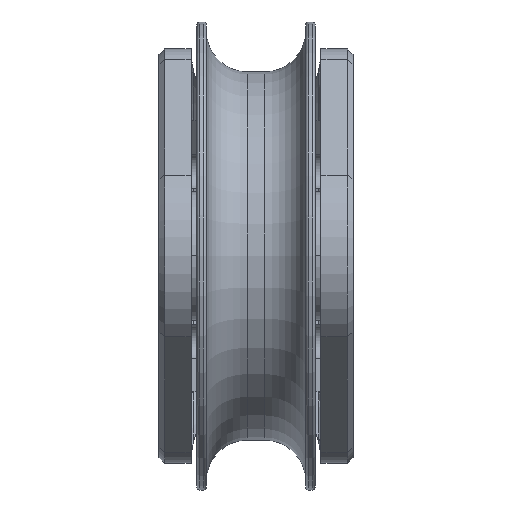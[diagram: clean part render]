
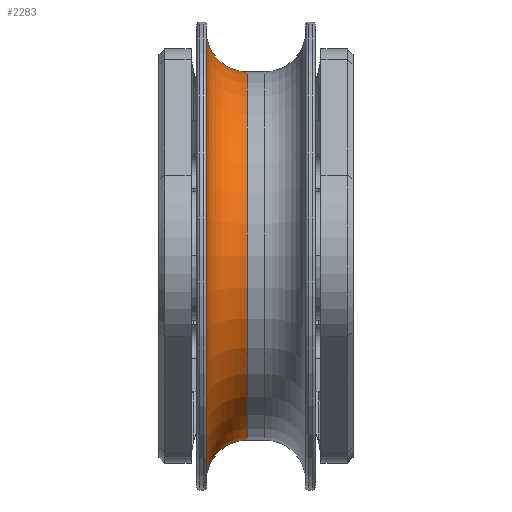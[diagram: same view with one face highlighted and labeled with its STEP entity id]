
A CAD part, top view. The second image highlights one B-rep face of the part: STEP entity #2283.
In plain terms, the highlighted toroidal (fillet/blend) face has major radius 38.5 mm and minor radius 7 mm.
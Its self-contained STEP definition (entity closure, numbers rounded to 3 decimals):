
#2=CARTESIAN_POINT('',(-1.5,0.,0.));
#3=DIRECTION('',(1.,0.,0.));
#4=DIRECTION('',(0.,1.,0.));
#5=AXIS2_PLACEMENT_3D('',#2,#3,#4);
#7=CARTESIAN_POINT('',(-1.5,38.5,0.));
#8=DIRECTION('',(0.,0.,-1.));
#9=DIRECTION('',(0.,-1.,0.));
#10=AXIS2_PLACEMENT_3D('',#7,#8,#9);
#12=CARTESIAN_POINT('',(-1.5,-38.5,0.));
#13=DIRECTION('',(0.,0.,1.));
#14=DIRECTION('',(0.,1.,0.));
#15=AXIS2_PLACEMENT_3D('',#12,#13,#14);
#27=CARTESIAN_POINT('',(-8.5,0.,0.));
#28=DIRECTION('',(1.,0.,0.));
#29=DIRECTION('',(0.,1.,0.));
#30=AXIS2_PLACEMENT_3D('',#27,#28,#29);
#2013=CARTESIAN_POINT('',(-1.5,31.5,0.));
#2015=VERTEX_POINT('',#2013);
#2029=CARTESIAN_POINT('',(-1.5,-31.5,0.));
#2031=VERTEX_POINT('',#2029);
#2038=CARTESIAN_POINT('',(-8.5,38.5,0.));
#2039=VERTEX_POINT('',#2038);
#2042=CARTESIAN_POINT('',(-8.5,-38.5,0.));
#2043=VERTEX_POINT('',#2042);
#2268=CARTESIAN_POINT('',(-1.5,0.,0.));
#2269=DIRECTION('',(1.,0.,0.));
#2270=DIRECTION('',(0.,-1.,0.));
#2271=AXIS2_PLACEMENT_3D('',#2268,#2269,#2270);
#2272=TOROIDAL_SURFACE('',#2271,38.5,7.);
#2274=ORIENTED_EDGE('',*,*,#2273,.F.);
#2276=ORIENTED_EDGE('',*,*,#2275,.T.);
#2278=ORIENTED_EDGE('',*,*,#2277,.T.);
#2280=ORIENTED_EDGE('',*,*,#2279,.F.);
#2281=EDGE_LOOP('',(#2274,#2276,#2278,#2280));
#2282=FACE_OUTER_BOUND('',#2281,.F.);
#2283=ADVANCED_FACE('',(#2282),#2272,.F.);
#6=CIRCLE('',#5,31.5);
#11=CIRCLE('',#10,7.);
#16=CIRCLE('',#15,7.);
#31=CIRCLE('',#30,38.5);
#2273=EDGE_CURVE('',#2015,#2039,#11,.T.);
#2275=EDGE_CURVE('',#2015,#2031,#6,.T.);
#2277=EDGE_CURVE('',#2031,#2043,#16,.T.);
#2279=EDGE_CURVE('',#2039,#2043,#31,.T.);
